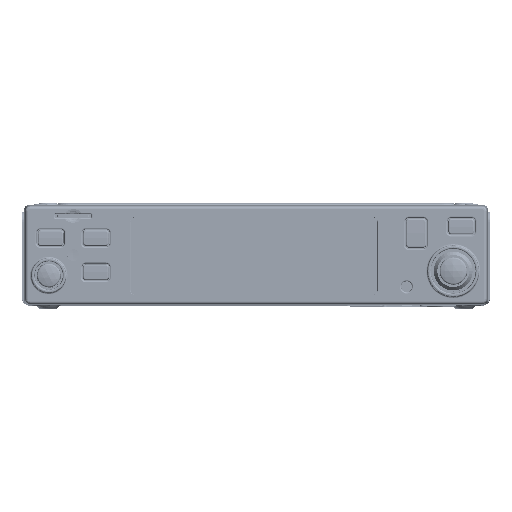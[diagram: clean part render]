
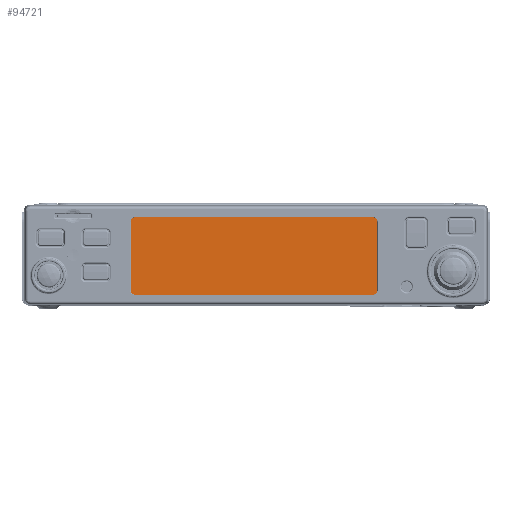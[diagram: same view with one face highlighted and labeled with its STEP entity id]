
A CAD part, top view. The second image highlights one B-rep face of the part: STEP entity #94721.
In plain terms, the highlighted planar face has unit normal (0, 0, 1).
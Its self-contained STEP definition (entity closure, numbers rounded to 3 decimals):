
#1841 = AXIS2_PLACEMENT_3D ( 'NONE', #183361, #98022, #147900 ) ;
#6993 = LINE ( 'NONE', #8082, #36565 ) ;
#7591 = VERTEX_POINT ( 'NONE', #26384 ) ;
#8082 = CARTESIAN_POINT ( 'NONE',  ( -42.88, 4.778, 16.55 ) ) ;
#10544 = CIRCLE ( 'NONE', #166289, 1.45 ) ;
#14873 = ORIENTED_EDGE ( 'NONE', *, *, #187321, .T. ) ;
#15593 = VERTEX_POINT ( 'NONE', #106004 ) ;
#18695 = DIRECTION ( 'NONE',  ( 0., 0., 1. ) ) ;
#24589 = EDGE_CURVE ( 'NONE', #160333, #211257, #104285, .T. ) ;
#26384 = CARTESIAN_POINT ( 'NONE',  ( -42.88, 28.277, 16.55 ) ) ;
#36565 = VECTOR ( 'NONE', #109021, 1000. ) ;
#36648 = EDGE_CURVE ( 'NONE', #7591, #129957, #6993, .T. ) ;
#44427 = DIRECTION ( 'NONE',  ( 0., 1., 0. ) ) ;
#46550 = CARTESIAN_POINT ( 'NONE',  ( 40.07, 29.727, 16.55 ) ) ;
#53807 = DIRECTION ( 'NONE',  ( 0., 0., 1. ) ) ;
#57918 = DIRECTION ( 'NONE',  ( 0., 0., 1. ) ) ;
#60100 = CARTESIAN_POINT ( 'NONE',  ( 40.07, 3.328, 16.55 ) ) ;
#60776 = ORIENTED_EDGE ( 'NONE', *, *, #36648, .T. ) ;
#68222 = DIRECTION ( 'NONE',  ( 1., 0., 0. ) ) ;
#73295 = DIRECTION ( 'NONE',  ( 0., 0., 1. ) ) ;
#79822 = DIRECTION ( 'NONE',  ( -1., 0., 0. ) ) ;
#80037 = AXIS2_PLACEMENT_3D ( 'NONE', #174638, #53807, #68222 ) ;
#84959 = EDGE_CURVE ( 'NONE', #121633, #155743, #161969, .T. ) ;
#86008 = ORIENTED_EDGE ( 'NONE', *, *, #217792, .T. ) ;
#88564 = CARTESIAN_POINT ( 'NONE',  ( -41.43, 29.727, 16.55 ) ) ;
#94504 = CARTESIAN_POINT ( 'NONE',  ( 40.07, 4.778, 16.55 ) ) ;
#94721 = ADVANCED_FACE ( 'NONE', ( #135889 ), #207951, .T. ) ;
#98022 = DIRECTION ( 'NONE',  ( 0., 0., 1. ) ) ;
#98072 = ORIENTED_EDGE ( 'NONE', *, *, #24589, .T. ) ;
#104285 = LINE ( 'NONE', #169685, #155180 ) ;
#105475 = EDGE_LOOP ( 'NONE', ( #60776, #182395, #98072, #184920, #185182, #179723, #14873, #86008 ) ) ;
#106004 = CARTESIAN_POINT ( 'NONE',  ( 40.07, 29.727, 16.55 ) ) ;
#106925 = CARTESIAN_POINT ( 'NONE',  ( -42.88, 4.777, 16.55 ) ) ;
#109021 = DIRECTION ( 'NONE',  ( 0., -1., 0. ) ) ;
#121633 = VERTEX_POINT ( 'NONE', #179654 ) ;
#121802 = DIRECTION ( 'NONE',  ( 1., 0., 0. ) ) ;
#125486 = EDGE_CURVE ( 'NONE', #211257, #121633, #134206, .T. ) ;
#129957 = VERTEX_POINT ( 'NONE', #106925 ) ;
#130519 = CARTESIAN_POINT ( 'NONE',  ( -41.43, 3.327, 16.55 ) ) ;
#134206 = CIRCLE ( 'NONE', #162554, 1.45 ) ;
#135889 = FACE_OUTER_BOUND ( 'NONE', #105475, .T. ) ;
#142069 = CARTESIAN_POINT ( 'NONE',  ( 41.52, 4.778, 16.55 ) ) ;
#143109 = CARTESIAN_POINT ( 'NONE',  ( 40.07, 28.277, 16.55 ) ) ;
#147900 = DIRECTION ( 'NONE',  ( 1., 0., 0. ) ) ;
#151249 = EDGE_CURVE ( 'NONE', #155743, #15593, #10544, .T. ) ;
#155180 = VECTOR ( 'NONE', #187446, 1000. ) ;
#155743 = VERTEX_POINT ( 'NONE', #215736 ) ;
#156354 = VERTEX_POINT ( 'NONE', #88564 ) ;
#160333 = VERTEX_POINT ( 'NONE', #130519 ) ;
#160847 = DIRECTION ( 'NONE',  ( 1., 0., 0. ) ) ;
#161969 = LINE ( 'NONE', #142069, #204903 ) ;
#162130 = DIRECTION ( 'NONE',  ( 1., 0., 0. ) ) ;
#162554 = AXIS2_PLACEMENT_3D ( 'NONE', #94504, #57918, #162130 ) ;
#164046 = CARTESIAN_POINT ( 'NONE',  ( -41.43, 4.777, 16.55 ) ) ;
#164102 = LINE ( 'NONE', #46550, #202529 ) ;
#166289 = AXIS2_PLACEMENT_3D ( 'NONE', #143109, #73295, #160847 ) ;
#168886 = CIRCLE ( 'NONE', #197236, 1.45 ) ;
#169685 = CARTESIAN_POINT ( 'NONE',  ( 40.07, 3.328, 16.55 ) ) ;
#174638 = CARTESIAN_POINT ( 'NONE',  ( 40.07, 4.778, 16.55 ) ) ;
#179654 = CARTESIAN_POINT ( 'NONE',  ( 41.52, 4.778, 16.55 ) ) ;
#179723 = ORIENTED_EDGE ( 'NONE', *, *, #151249, .T. ) ;
#182395 = ORIENTED_EDGE ( 'NONE', *, *, #198762, .T. ) ;
#183361 = CARTESIAN_POINT ( 'NONE',  ( -41.43, 28.277, 16.55 ) ) ;
#184920 = ORIENTED_EDGE ( 'NONE', *, *, #125486, .T. ) ;
#185182 = ORIENTED_EDGE ( 'NONE', *, *, #84959, .T. ) ;
#187321 = EDGE_CURVE ( 'NONE', #15593, #156354, #164102, .T. ) ;
#187446 = DIRECTION ( 'NONE',  ( 1., 0., 0. ) ) ;
#197236 = AXIS2_PLACEMENT_3D ( 'NONE', #164046, #18695, #121802 ) ;
#198762 = EDGE_CURVE ( 'NONE', #129957, #160333, #168886, .T. ) ;
#202529 = VECTOR ( 'NONE', #79822, 1000. ) ;
#204903 = VECTOR ( 'NONE', #44427, 1000. ) ;
#207334 = CIRCLE ( 'NONE', #1841, 1.45 ) ;
#207951 = PLANE ( 'NONE',  #80037 ) ;
#211257 = VERTEX_POINT ( 'NONE', #60100 ) ;
#215736 = CARTESIAN_POINT ( 'NONE',  ( 41.52, 28.277, 16.55 ) ) ;
#217792 = EDGE_CURVE ( 'NONE', #156354, #7591, #207334, .T. ) ;
